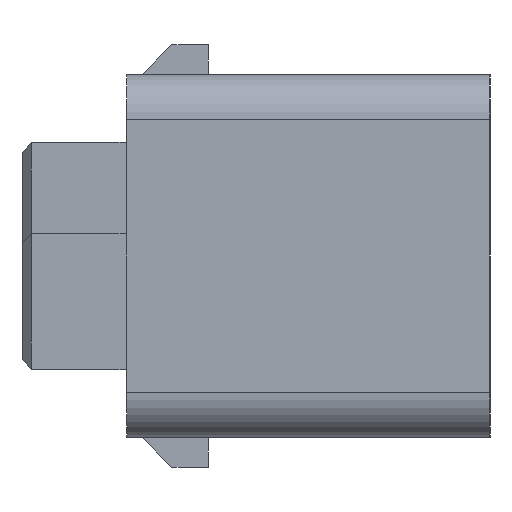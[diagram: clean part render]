
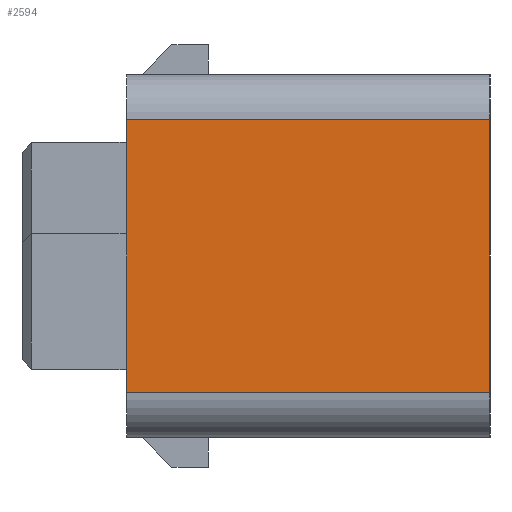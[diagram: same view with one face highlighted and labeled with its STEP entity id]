
A CAD part, left-side view. The second image highlights one B-rep face of the part: STEP entity #2594.
In plain terms, the highlighted planar face has unit normal (-1, 0, 0).
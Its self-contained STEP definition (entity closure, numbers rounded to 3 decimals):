
#2594=ADVANCED_FACE('',(#3850),#3190,.T.);
#3190=PLANE('',#15017);
#3850=FACE_OUTER_BOUND('',#4617,.T.);
#4617=EDGE_LOOP('',(#7411,#7412,#7413,#7414));
#7411=ORIENTED_EDGE('',*,*,#11111,.T.);
#7412=ORIENTED_EDGE('',*,*,#11122,.T.);
#7413=ORIENTED_EDGE('',*,*,#11124,.F.);
#7414=ORIENTED_EDGE('',*,*,#11125,.T.);
#9509=VERTEX_POINT('',#21889);
#9510=VERTEX_POINT('',#21891);
#9517=VERTEX_POINT('',#21913);
#9518=VERTEX_POINT('',#21917);
#11111=EDGE_CURVE('',#9510,#9509,#12613,.T.);
#11122=EDGE_CURVE('',#9509,#9517,#12621,.T.);
#11124=EDGE_CURVE('',#9518,#9517,#12622,.T.);
#11125=EDGE_CURVE('',#9518,#9510,#12623,.T.);
#12613=LINE('',#21890,#14065);
#12621=LINE('',#21912,#14073);
#12622=LINE('',#21916,#14074);
#12623=LINE('',#21918,#14075);
#14065=VECTOR('',#17436,1.);
#14073=VECTOR('',#17458,1.);
#14074=VECTOR('',#17463,1.);
#14075=VECTOR('',#17464,1.);
#15017=AXIS2_PLACEMENT_3D('',#21919,#17465,#17466);
#17436=DIRECTION('',(0.,0.,1.));
#17458=DIRECTION('',(0.,1.,0.));
#17463=DIRECTION('',(0.,0.,1.));
#17464=DIRECTION('',(0.,-1.,0.));
#17465=DIRECTION('',(-1.,0.,0.));
#17466=DIRECTION('',(0.,0.,-1.));
#21889=CARTESIAN_POINT('',(-17.5,5.1,3.));
#21890=CARTESIAN_POINT('',(-17.5,5.1,-3.));
#21891=CARTESIAN_POINT('',(-17.5,5.1,-3.));
#21912=CARTESIAN_POINT('',(-17.5,5.1,3.));
#21913=CARTESIAN_POINT('',(-17.5,13.1,3.));
#21916=CARTESIAN_POINT('',(-17.5,13.1,-3.));
#21917=CARTESIAN_POINT('',(-17.5,13.1,-3.));
#21918=CARTESIAN_POINT('',(-17.5,13.1,-3.));
#21919=CARTESIAN_POINT('',(-17.5,13.1,4.));
